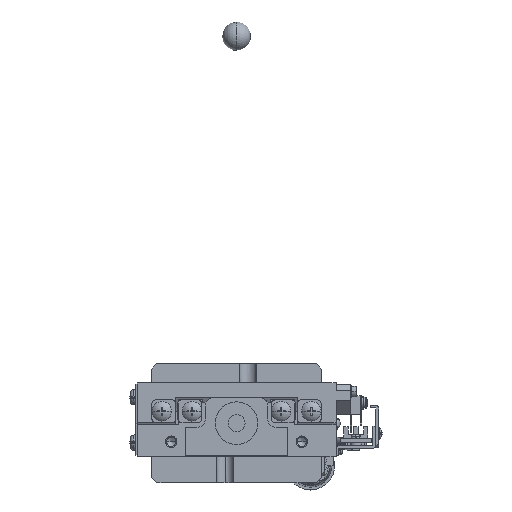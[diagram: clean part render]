
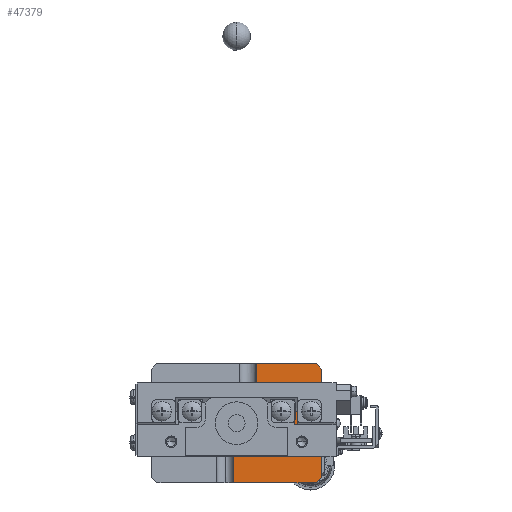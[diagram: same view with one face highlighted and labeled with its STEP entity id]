
A CAD part, left-side view. The second image highlights one B-rep face of the part: STEP entity #47379.
In plain terms, the highlighted planar face has unit normal (-1, 0, 0).
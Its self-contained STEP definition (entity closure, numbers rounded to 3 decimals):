
#575 = CARTESIAN_POINT ( 'NONE',  ( 189.002, -258.517, 324.22 ) ) ;
#2804 = CARTESIAN_POINT ( 'NONE',  ( 189.002, -265.517, 311.72 ) ) ;
#3532 = CARTESIAN_POINT ( 'NONE',  ( 189.002, -235.517, 330.72 ) ) ;
#6263 = ORIENTED_EDGE ( 'NONE', *, *, #52916, .F. ) ;
#6905 = CARTESIAN_POINT ( 'NONE',  ( 189.002, -235.517, 351.72 ) ) ;
#8102 = EDGE_CURVE ( 'NONE', #66784, #9478, #16444, .T. ) ;
#8599 = CIRCLE ( 'NONE', #9384, 11. ) ;
#8978 = DIRECTION ( 'NONE',  ( 1., 0., 0. ) ) ;
#9000 = CARTESIAN_POINT ( 'NONE',  ( 189.002, -242.475, 338.72 ) ) ;
#9272 = DIRECTION ( 'NONE',  ( 0., 0., 1. ) ) ;
#9357 = EDGE_CURVE ( 'NONE', #65734, #72620, #11692, .T. ) ;
#9384 = AXIS2_PLACEMENT_3D ( 'NONE', #54524, #59401, #78730 ) ;
#9405 = DIRECTION ( 'NONE',  ( 0., -1., 0. ) ) ;
#9478 = VERTEX_POINT ( 'NONE', #28289 ) ;
#10036 = CARTESIAN_POINT ( 'NONE',  ( 189.002, -235.517, 309.72 ) ) ;
#11692 = LINE ( 'NONE', #71488, #34956 ) ;
#12492 = DIRECTION ( 'NONE',  ( 1., 0., 0. ) ) ;
#13201 = VERTEX_POINT ( 'NONE', #15475 ) ;
#15475 = CARTESIAN_POINT ( 'NONE',  ( 189.002, -254.017, 324.22 ) ) ;
#15688 = VERTEX_POINT ( 'NONE', #74138 ) ;
#16444 = LINE ( 'NONE', #39074, #72744 ) ;
#17199 = CARTESIAN_POINT ( 'NONE',  ( 189.002, -235.517, 319.72 ) ) ;
#19493 = PLANE ( 'NONE',  #75821 ) ;
#20827 = CARTESIAN_POINT ( 'NONE',  ( 189.002, -234.475, 319.77 ) ) ;
#22506 = LINE ( 'NONE', #10036, #70069 ) ;
#25253 = DIRECTION ( 'NONE',  ( 0., -1., 0. ) ) ;
#25807 = DIRECTION ( 'NONE',  ( 0., 0.707, 0.707 ) ) ;
#25996 = CARTESIAN_POINT ( 'NONE',  ( 189.002, -263.517, 309.72 ) ) ;
#26295 = EDGE_CURVE ( 'NONE', #79508, #33079, #66294, .T. ) ;
#27275 = LINE ( 'NONE', #72560, #51524 ) ;
#27775 = ORIENTED_EDGE ( 'NONE', *, *, #26295, .F. ) ;
#28289 = CARTESIAN_POINT ( 'NONE',  ( 189.002, -263.517, 351.72 ) ) ;
#31969 = CARTESIAN_POINT ( 'NONE',  ( 189.002, -235.517, 351.72 ) ) ;
#32662 = VECTOR ( 'NONE', #72282, 1000. ) ;
#33079 = VERTEX_POINT ( 'NONE', #66337 ) ;
#33645 = EDGE_CURVE ( 'NONE', #15688, #67926, #49144, .T. ) ;
#33654 = VERTEX_POINT ( 'NONE', #17199 ) ;
#34317 = DIRECTION ( 'NONE',  ( 0., -0.707, 0.707 ) ) ;
#34327 = DIRECTION ( 'NONE',  ( 0., 0., -1. ) ) ;
#34956 = VECTOR ( 'NONE', #34317, 1000. ) ;
#37310 = EDGE_CURVE ( 'NONE', #33654, #67926, #8599, .T. ) ;
#37799 = CIRCLE ( 'NONE', #54961, 4.5 ) ;
#39074 = CARTESIAN_POINT ( 'NONE',  ( 189.002, -249.517, 365.72 ) ) ;
#41634 = CARTESIAN_POINT ( 'NONE',  ( 189.002, -242.475, 339.24 ) ) ;
#43677 = FACE_OUTER_BOUND ( 'NONE', #58883, .T. ) ;
#44172 = DIRECTION ( 'NONE',  ( 0., 0., -1. ) ) ;
#45473 = VERTEX_POINT ( 'NONE', #69717 ) ;
#45605 = AXIS2_PLACEMENT_3D ( 'NONE', #3532, #8978, #53169 ) ;
#46282 = CARTESIAN_POINT ( 'NONE',  ( 189.002, -258.517, 324.22 ) ) ;
#46299 = CIRCLE ( 'NONE', #45605, 11. ) ;
#47353 = ORIENTED_EDGE ( 'NONE', *, *, #9357, .T. ) ;
#47379 = ADVANCED_FACE ( 'NONE', ( #60150, #43677 ), #19493, .T. ) ;
#47669 = ORIENTED_EDGE ( 'NONE', *, *, #72500, .T. ) ;
#48348 = EDGE_CURVE ( 'NONE', #45473, #13201, #51364, .T. ) ;
#49144 = LINE ( 'NONE', #78282, #32662 ) ;
#51364 = CIRCLE ( 'NONE', #71177, 4.5 ) ;
#51524 = VECTOR ( 'NONE', #34327, 1000. ) ;
#52916 = EDGE_CURVE ( 'NONE', #66784, #72620, #27275, .T. ) ;
#53169 = DIRECTION ( 'NONE',  ( 0., 0., 1. ) ) ;
#54524 = CARTESIAN_POINT ( 'NONE',  ( 189.002, -235.517, 330.72 ) ) ;
#54701 = EDGE_CURVE ( 'NONE', #13201, #45473, #37799, .T. ) ;
#54961 = AXIS2_PLACEMENT_3D ( 'NONE', #575, #12492, #25253 ) ;
#56627 = DIRECTION ( 'NONE',  ( -1., 0., 0. ) ) ;
#57398 = ORIENTED_EDGE ( 'NONE', *, *, #37310, .T. ) ;
#58883 = EDGE_LOOP ( 'NONE', ( #27775, #70252, #57398, #80054, #75752, #47353, #6263, #70559, #47669 ) ) ;
#59401 = DIRECTION ( 'NONE',  ( 1., 0., 0. ) ) ;
#60150 = FACE_BOUND ( 'NONE', #74855, .T. ) ;
#62319 = CARTESIAN_POINT ( 'NONE',  ( 189.002, -265.517, 349.72 ) ) ;
#64692 = DIRECTION ( 'NONE',  ( 1., 0., 0. ) ) ;
#65079 = DIRECTION ( 'NONE',  ( 0., -1., 0. ) ) ;
#65734 = VERTEX_POINT ( 'NONE', #25996 ) ;
#66212 = ORIENTED_EDGE ( 'NONE', *, *, #54701, .T. ) ;
#66294 = LINE ( 'NONE', #9000, #70241 ) ;
#66337 = CARTESIAN_POINT ( 'NONE',  ( 189.002, -242.475, 351.72 ) ) ;
#66622 = EDGE_CURVE ( 'NONE', #15688, #65734, #22506, .T. ) ;
#66784 = VERTEX_POINT ( 'NONE', #62319 ) ;
#67926 = VERTEX_POINT ( 'NONE', #20827 ) ;
#68959 = DIRECTION ( 'NONE',  ( 0., 1., 0. ) ) ;
#69717 = CARTESIAN_POINT ( 'NONE',  ( 189.002, -263.017, 324.22 ) ) ;
#69755 = EDGE_CURVE ( 'NONE', #79508, #33654, #46299, .T. ) ;
#70069 = VECTOR ( 'NONE', #65079, 1000. ) ;
#70241 = VECTOR ( 'NONE', #9272, 1000. ) ;
#70252 = ORIENTED_EDGE ( 'NONE', *, *, #69755, .T. ) ;
#70559 = ORIENTED_EDGE ( 'NONE', *, *, #8102, .T. ) ;
#71177 = AXIS2_PLACEMENT_3D ( 'NONE', #46282, #64692, #9405 ) ;
#71488 = CARTESIAN_POINT ( 'NONE',  ( 189.002, -270.517, 316.72 ) ) ;
#71513 = ORIENTED_EDGE ( 'NONE', *, *, #48348, .T. ) ;
#72282 = DIRECTION ( 'NONE',  ( 0., 0., 1. ) ) ;
#72500 = EDGE_CURVE ( 'NONE', #9478, #33079, #74135, .T. ) ;
#72560 = CARTESIAN_POINT ( 'NONE',  ( 189.002, -265.517, 351.72 ) ) ;
#72620 = VERTEX_POINT ( 'NONE', #2804 ) ;
#72744 = VECTOR ( 'NONE', #25807, 1000. ) ;
#74135 = LINE ( 'NONE', #6905, #76072 ) ;
#74138 = CARTESIAN_POINT ( 'NONE',  ( 189.002, -234.475, 309.72 ) ) ;
#74855 = EDGE_LOOP ( 'NONE', ( #71513, #66212 ) ) ;
#75752 = ORIENTED_EDGE ( 'NONE', *, *, #66622, .T. ) ;
#75821 = AXIS2_PLACEMENT_3D ( 'NONE', #31969, #56627, #44172 ) ;
#76072 = VECTOR ( 'NONE', #68959, 1000. ) ;
#78282 = CARTESIAN_POINT ( 'NONE',  ( 189.002, -234.475, 322.72 ) ) ;
#78730 = DIRECTION ( 'NONE',  ( 0., 0., 1. ) ) ;
#79508 = VERTEX_POINT ( 'NONE', #41634 ) ;
#80054 = ORIENTED_EDGE ( 'NONE', *, *, #33645, .F. ) ;
